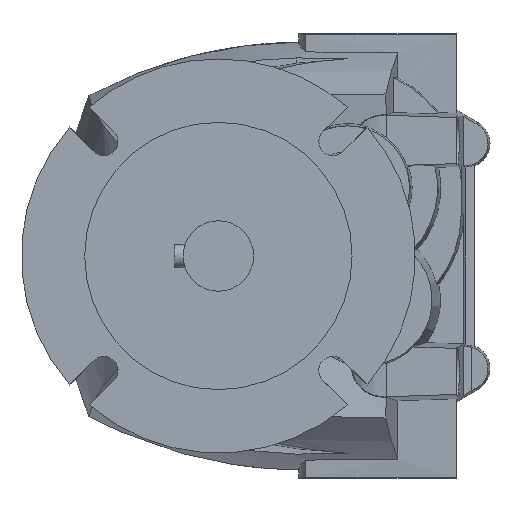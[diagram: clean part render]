
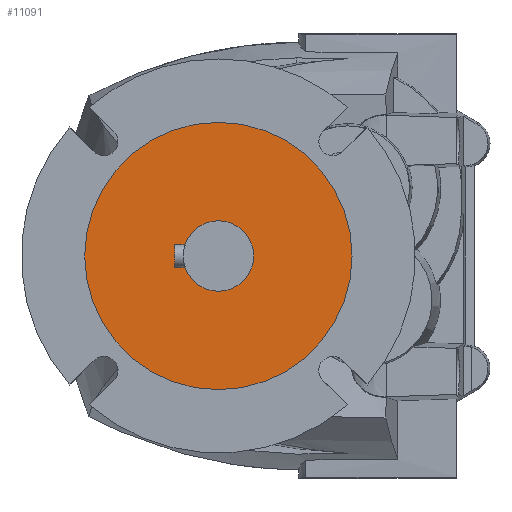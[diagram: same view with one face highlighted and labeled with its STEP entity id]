
A CAD part, left-side view. The second image highlights one B-rep face of the part: STEP entity #11091.
In plain terms, the highlighted planar face has unit normal (-1, 0, 0).
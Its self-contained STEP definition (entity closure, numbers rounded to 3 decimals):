
#1309 = CARTESIAN_POINT ( 'NONE',  ( -93., 0., 12.5 ) ) ;
#1431 = CARTESIAN_POINT ( 'NONE',  ( -93., 0., -12.5 ) ) ;
#1432 = VERTEX_POINT ( 'NONE', #1309 ) ;
#1503 = VERTEX_POINT ( 'NONE', #1431 ) ;
#1589 = VERTEX_POINT ( 'NONE', #9061 ) ;
#1602 = VERTEX_POINT ( 'NONE', #9084 ) ;
#2187 = CARTESIAN_POINT ( 'NONE',  ( -93., 0., 0. ) ) ;
#2188 = DIRECTION ( 'NONE',  ( -1., 0., 0. ) ) ;
#2189 = DIRECTION ( 'NONE',  ( 0., 0., 1. ) ) ;
#2955 = CARTESIAN_POINT ( 'NONE',  ( -93., 0., 0. ) ) ;
#2956 = DIRECTION ( 'NONE',  ( -1., 0., 0. ) ) ;
#2957 = DIRECTION ( 'NONE',  ( 0., 0., -1. ) ) ;
#2982 = CARTESIAN_POINT ( 'NONE',  ( -93., 0., 0. ) ) ;
#2983 = DIRECTION ( 'NONE',  ( -1., 0., 0. ) ) ;
#2984 = DIRECTION ( 'NONE',  ( 0., 0., -1. ) ) ;
#3269 = ORIENTED_EDGE ( 'NONE', *, *, #7281, .T. ) ;
#3270 = ORIENTED_EDGE ( 'NONE', *, *, #14745, .T. ) ;
#3271 = ORIENTED_EDGE ( 'NONE', *, *, #7419, .F. ) ;
#3272 = ORIENTED_EDGE ( 'NONE', *, *, #7431, .F. ) ;
#3427 = AXIS2_PLACEMENT_3D ( 'NONE', #2955, #2956, #2957 ) ;
#3431 = AXIS2_PLACEMENT_3D ( 'NONE', #2982, #2983, #2984 ) ;
#3628 = AXIS2_PLACEMENT_3D ( 'NONE', #9238, #9252, #9254 ) ;
#3870 = AXIS2_PLACEMENT_3D ( 'NONE', #19991, #19992, #19993 ) ;
#3990 = CIRCLE ( 'NONE', #3427, 12.5 ) ;
#4007 = CIRCLE ( 'NONE', #3431, 12.5 ) ;
#4377 = EDGE_LOOP ( 'NONE', ( #3271, #3272 ) ) ;
#4385 = EDGE_LOOP ( 'NONE', ( #3269, #3270 ) ) ;
#6700 = CIRCLE ( 'NONE', #15104, 47.5 ) ;
#7281 = EDGE_CURVE ( 'NONE', #1602, #1589, #6700, .T. ) ;
#7419 = EDGE_CURVE ( 'NONE', #1432, #1503, #3990, .T. ) ;
#7431 = EDGE_CURVE ( 'NONE', #1503, #1432, #4007, .T. ) ;
#9061 = CARTESIAN_POINT ( 'NONE',  ( -93., 0., -47.5 ) ) ;
#9084 = CARTESIAN_POINT ( 'NONE',  ( -93., 0., 47.5 ) ) ;
#9235 = PLANE ( 'NONE',  #3628 ) ;
#9238 = CARTESIAN_POINT ( 'NONE',  ( -93., 43.5, 0. ) ) ;
#9252 = DIRECTION ( 'NONE',  ( 1., 0., 0. ) ) ;
#9254 = DIRECTION ( 'NONE',  ( 0., 0., -1. ) ) ;
#10315 = FACE_OUTER_BOUND ( 'NONE', #4385, .T. ) ;
#10318 = FACE_BOUND ( 'NONE', #4377, .T. ) ;
#11091 = ADVANCED_FACE ( 'NONE', ( #10315, #10318 ), #9235, .F. ) ;
#14451 = CIRCLE ( 'NONE', #3870, 47.5 ) ;
#14745 = EDGE_CURVE ( 'NONE', #1589, #1602, #14451, .T. ) ;
#15104 = AXIS2_PLACEMENT_3D ( 'NONE', #2187, #2188, #2189 ) ;
#19991 = CARTESIAN_POINT ( 'NONE',  ( -93., 0., 0. ) ) ;
#19992 = DIRECTION ( 'NONE',  ( -1., 0., 0. ) ) ;
#19993 = DIRECTION ( 'NONE',  ( 0., 0., 1. ) ) ;
